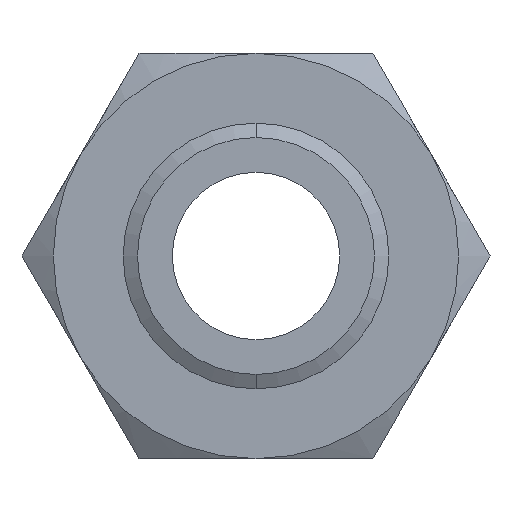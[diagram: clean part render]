
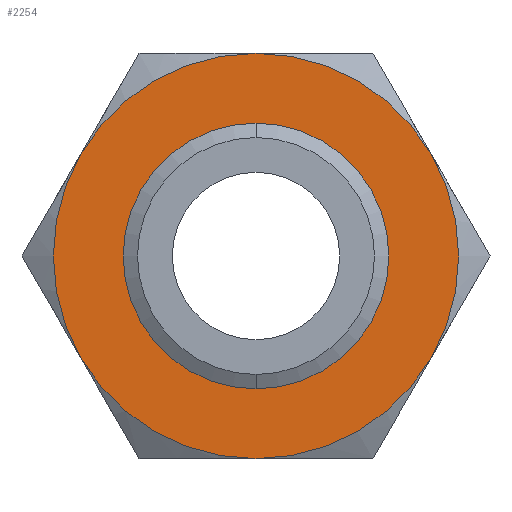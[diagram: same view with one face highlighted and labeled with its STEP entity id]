
A CAD part, front view. The second image highlights one B-rep face of the part: STEP entity #2254.
In plain terms, the highlighted planar face has unit normal (0, -1, 0).
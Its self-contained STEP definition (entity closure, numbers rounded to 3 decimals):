
#6 = EDGE_CURVE ( 'NONE', #3175, #3169, #131, .T. ) ;
#17 = EDGE_CURVE ( 'NONE', #3169, #3170, #171, .T. ) ;
#19 = ORIENTED_EDGE ( 'NONE', *, *, #17, .F. ) ;
#21 = ORIENTED_EDGE ( 'NONE', *, *, #22, .F. ) ;
#22 = EDGE_CURVE ( 'NONE', #2944, #2943, #166, .T. ) ;
#30 = VERTEX_POINT ( 'NONE', #155 ) ;
#43 = ORIENTED_EDGE ( 'NONE', *, *, #44, .F. ) ;
#44 = EDGE_CURVE ( 'NONE', #30, #3163, #198, .T. ) ;
#45 = ORIENTED_EDGE ( 'NONE', *, *, #47, .F. ) ;
#47 = EDGE_CURVE ( 'NONE', #3170, #30, #193, .T. ) ;
#127 = DIRECTION ( 'NONE',  ( 0., 0., 1. ) ) ;
#128 = DIRECTION ( 'NONE',  ( 0., 1., 0. ) ) ;
#129 = CARTESIAN_POINT ( 'NONE',  ( 0., 0., 0. ) ) ;
#130 = AXIS2_PLACEMENT_3D ( 'NONE', #129, #128, #127 ) ;
#131 = CIRCLE ( 'NONE', #130, 77.5 ) ;
#155 = CARTESIAN_POINT ( 'NONE',  ( 67.117, 0., -38.75 ) ) ;
#162 = DIRECTION ( 'NONE',  ( 0., 0., -1. ) ) ;
#163 = DIRECTION ( 'NONE',  ( 0., -1., 0. ) ) ;
#164 = CARTESIAN_POINT ( 'NONE',  ( 0., 0., 0. ) ) ;
#165 = AXIS2_PLACEMENT_3D ( 'NONE', #164, #163, #162 ) ;
#166 = CIRCLE ( 'NONE', #165, 45.301 ) ;
#167 = DIRECTION ( 'NONE',  ( 0., 0., 1. ) ) ;
#168 = DIRECTION ( 'NONE',  ( 0., 1., 0. ) ) ;
#169 = CARTESIAN_POINT ( 'NONE',  ( 0., 0., 0. ) ) ;
#170 = AXIS2_PLACEMENT_3D ( 'NONE', #169, #168, #167 ) ;
#171 = CIRCLE ( 'NONE', #170, 77.5 ) ;
#189 = DIRECTION ( 'NONE',  ( 0., 0., 1. ) ) ;
#190 = DIRECTION ( 'NONE',  ( 0., 1., 0. ) ) ;
#191 = CARTESIAN_POINT ( 'NONE',  ( 0., 0., 0. ) ) ;
#192 = AXIS2_PLACEMENT_3D ( 'NONE', #191, #190, #189 ) ;
#193 = CIRCLE ( 'NONE', #192, 77.5 ) ;
#194 = DIRECTION ( 'NONE',  ( 0., 0., 1. ) ) ;
#195 = DIRECTION ( 'NONE',  ( 0., 1., 0. ) ) ;
#196 = CARTESIAN_POINT ( 'NONE',  ( 0., 0., 0. ) ) ;
#197 = AXIS2_PLACEMENT_3D ( 'NONE', #196, #195, #194 ) ;
#198 = CIRCLE ( 'NONE', #197, 77.5 ) ;
#376 = DIRECTION ( 'NONE',  ( 0., 0., 1. ) ) ;
#377 = DIRECTION ( 'NONE',  ( 0., 1., 0. ) ) ;
#378 = CARTESIAN_POINT ( 'NONE',  ( 44.745, 0., -77.5 ) ) ;
#380 = AXIS2_PLACEMENT_3D ( 'NONE', #378, #377, #376 ) ;
#381 = PLANE ( 'NONE',  #380 ) ;
#382 = FACE_BOUND ( 'NONE', #3167, .T. ) ;
#383 = FACE_OUTER_BOUND ( 'NONE', #2241, .T. ) ;
#1638 = CARTESIAN_POINT ( 'NONE',  ( 0., 0., 45.301 ) ) ;
#1639 = CARTESIAN_POINT ( 'NONE',  ( 0., 0., -45.301 ) ) ;
#1882 = DIRECTION ( 'NONE',  ( 0., 0., -1. ) ) ;
#1883 = DIRECTION ( 'NONE',  ( 0., -1., 0. ) ) ;
#1884 = CARTESIAN_POINT ( 'NONE',  ( 0., 0., 0. ) ) ;
#1885 = AXIS2_PLACEMENT_3D ( 'NONE', #1884, #1883, #1882 ) ;
#1886 = CIRCLE ( 'NONE', #1885, 45.301 ) ;
#2108 = CIRCLE ( 'NONE', #2154, 77.5 ) ;
#2109 = CARTESIAN_POINT ( 'NONE',  ( -67.117, 0., -38.75 ) ) ;
#2110 = DIRECTION ( 'NONE',  ( 0., 0., 1. ) ) ;
#2111 = DIRECTION ( 'NONE',  ( 0., 1., 0. ) ) ;
#2112 = CARTESIAN_POINT ( 'NONE',  ( 0., 0., 0. ) ) ;
#2113 = AXIS2_PLACEMENT_3D ( 'NONE', #2112, #2111, #2110 ) ;
#2114 = CIRCLE ( 'NONE', #2113, 77.5 ) ;
#2118 = CARTESIAN_POINT ( 'NONE',  ( -67.117, 0., 38.75 ) ) ;
#2126 = CARTESIAN_POINT ( 'NONE',  ( 67.117, 0., 38.75 ) ) ;
#2129 = CARTESIAN_POINT ( 'NONE',  ( 0., 0., 77.5 ) ) ;
#2134 = CARTESIAN_POINT ( 'NONE',  ( 0., 0., -77.5 ) ) ;
#2151 = DIRECTION ( 'NONE',  ( 0., 0., 1. ) ) ;
#2152 = DIRECTION ( 'NONE',  ( 0., 1., 0. ) ) ;
#2153 = CARTESIAN_POINT ( 'NONE',  ( 0., 0., 0. ) ) ;
#2154 = AXIS2_PLACEMENT_3D ( 'NONE', #2153, #2152, #2151 ) ;
#2241 = EDGE_LOOP ( 'NONE', ( #19, #3162, #3176, #3179, #43, #45 ) ) ;
#2254 = ADVANCED_FACE ( 'NONE', ( #383, #382 ), #381, .F. ) ;
#2943 = VERTEX_POINT ( 'NONE', #1639 ) ;
#2944 = VERTEX_POINT ( 'NONE', #1638 ) ;
#3026 = EDGE_CURVE ( 'NONE', #2943, #2944, #1886, .T. ) ;
#3162 = ORIENTED_EDGE ( 'NONE', *, *, #6, .F. ) ;
#3163 = VERTEX_POINT ( 'NONE', #2134 ) ;
#3167 = EDGE_LOOP ( 'NONE', ( #3168, #21 ) ) ;
#3168 = ORIENTED_EDGE ( 'NONE', *, *, #3026, .F. ) ;
#3169 = VERTEX_POINT ( 'NONE', #2129 ) ;
#3170 = VERTEX_POINT ( 'NONE', #2126 ) ;
#3175 = VERTEX_POINT ( 'NONE', #2118 ) ;
#3176 = ORIENTED_EDGE ( 'NONE', *, *, #3177, .F. ) ;
#3177 = EDGE_CURVE ( 'NONE', #3178, #3175, #2114, .T. ) ;
#3178 = VERTEX_POINT ( 'NONE', #2109 ) ;
#3179 = ORIENTED_EDGE ( 'NONE', *, *, #3180, .F. ) ;
#3180 = EDGE_CURVE ( 'NONE', #3163, #3178, #2108, .T. ) ;
